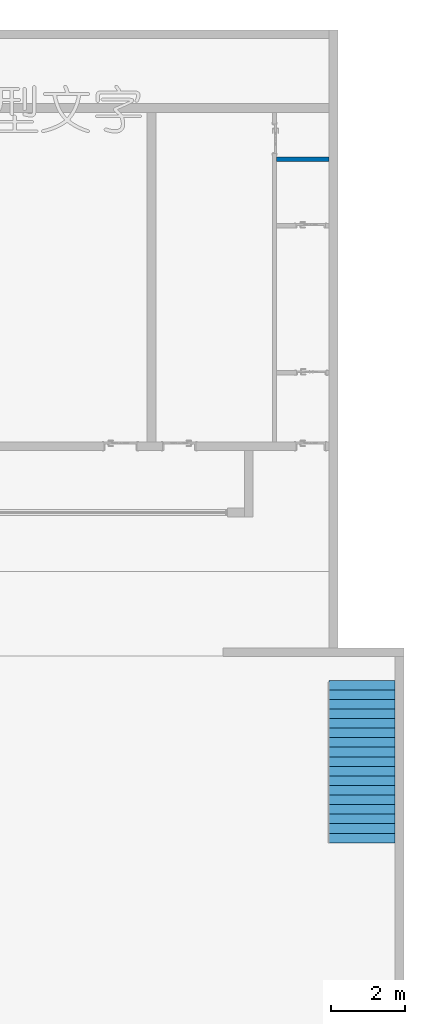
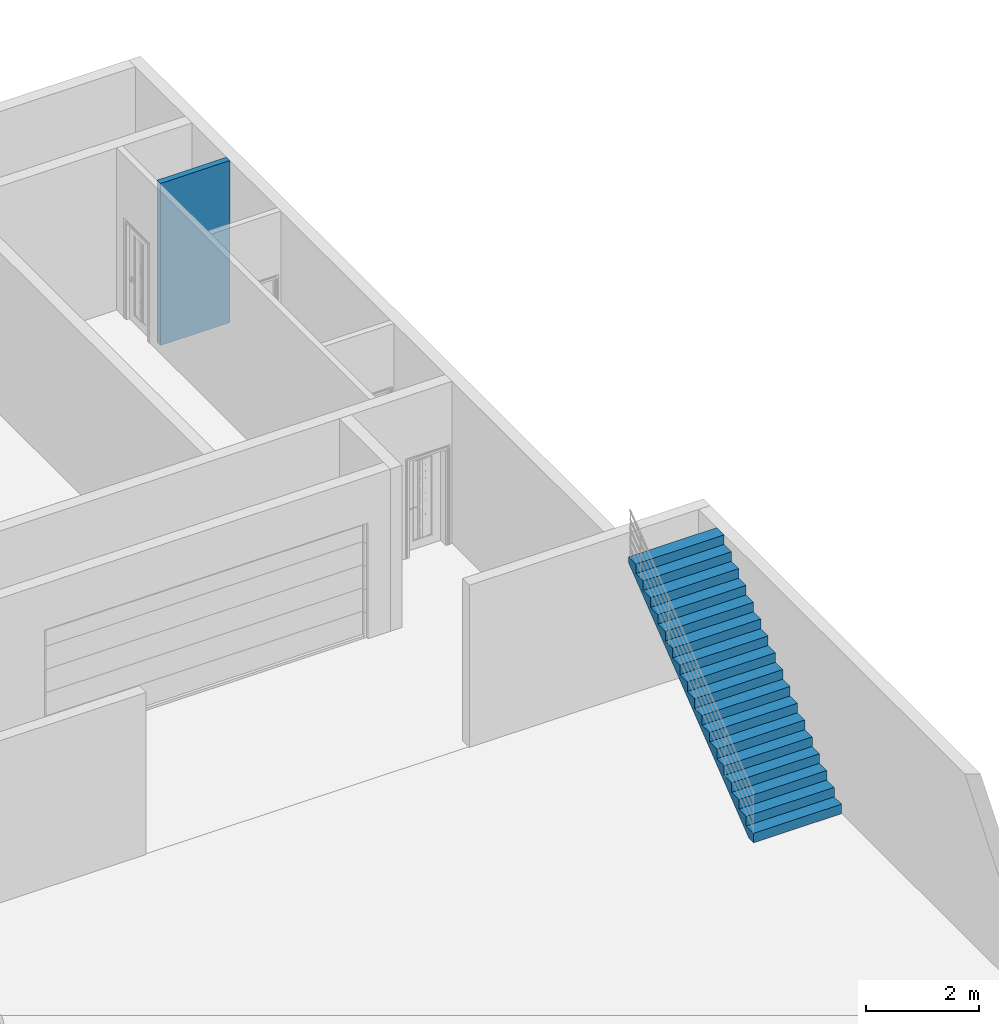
# One storey, part 21 of 24: 1 stair flight, 1 wall, 1 element without a shape of its own.
"""IFC2X3 building model written with IfcOpenShell, lengths in millimetres."""

from ifc_helpers import new_model, entity, si_unit, converted_unit, derived_unit, direction, frame, frame_2d, origin, place, context, subcontext, project, spatial, polyline, rectangle, outline, extrude, material, layer, layer_set, layer_usage, type_object, element, aggregate, save


model = new_model("IFC2X3")

# Units and contexts
model_context = context("Model", 3, precision=0.01, world=origin(), true_north=direction((6.12303176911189e-17, 1.0)))
body_context = subcontext(model_context, "Body", "Model", "MODEL_VIEW")
ifc_project = project(units=[si_unit("LENGTHUNIT", "METRE", prefix="MILLI"), si_unit("AREAUNIT", "SQUARE_METRE"), si_unit("VOLUMEUNIT", "CUBIC_METRE"), converted_unit("PLANEANGLEUNIT", "DEGREE", entity("IfcRatioMeasure", 0.0174532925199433), si_unit("PLANEANGLEUNIT", "RADIAN"), dimensions=[0, 0, 0, 0, 0, 0, 0]), si_unit("MASSUNIT", "GRAM", prefix="KILO"), derived_unit("MASSDENSITYUNIT", [(si_unit("MASSUNIT", "GRAM", prefix="KILO"), 1), (si_unit("LENGTHUNIT", "METRE"), -3)]), si_unit("TIMEUNIT", "SECOND"), si_unit("FREQUENCYUNIT", "HERTZ"), si_unit("THERMODYNAMICTEMPERATUREUNIT", "DEGREE_CELSIUS"), derived_unit("THERMALTRANSMITTANCEUNIT", [(si_unit("MASSUNIT", "GRAM", prefix="KILO"), 1), (si_unit("THERMODYNAMICTEMPERATUREUNIT", "KELVIN"), -1), (si_unit("TIMEUNIT", "SECOND"), -3)]), derived_unit("VOLUMETRICFLOWRATEUNIT", [(si_unit("LENGTHUNIT", "METRE"), 3), (si_unit("TIMEUNIT", "SECOND"), -1)]), si_unit("ELECTRICCURRENTUNIT", "AMPERE"), si_unit("ELECTRICVOLTAGEUNIT", "VOLT"), si_unit("POWERUNIT", "WATT"), si_unit("FORCEUNIT", "NEWTON", prefix="KILO"), si_unit("ILLUMINANCEUNIT", "LUX"), si_unit("LUMINOUSFLUXUNIT", "LUMEN"), si_unit("LUMINOUSINTENSITYUNIT", "CANDELA"), derived_unit("USERDEFINED", [(si_unit("MASSUNIT", "GRAM", prefix="KILO"), -1), (si_unit("LENGTHUNIT", "METRE"), -2), (si_unit("TIMEUNIT", "SECOND"), 3), (si_unit("LUMINOUSFLUXUNIT", "LUMEN"), 1)]), derived_unit("LINEARVELOCITYUNIT", [(si_unit("LENGTHUNIT", "METRE"), 1), (si_unit("TIMEUNIT", "SECOND"), -1)]), si_unit("PRESSUREUNIT", "PASCAL"), derived_unit("USERDEFINED", [(si_unit("LENGTHUNIT", "METRE"), -2), (si_unit("MASSUNIT", "GRAM", prefix="KILO"), 1), (si_unit("TIMEUNIT", "SECOND"), -2)])], contexts=[model_context])

# Site, building, storey
site_placement = place(None, origin())
site = spatial("IfcSite", under=ifc_project, at=site_placement, Name="表面", CompositionType="ELEMENT")
building_placement = place(site_placement, origin())
building = spatial("IfcBuilding", under=site, at=building_placement, CompositionType="ELEMENT")
storey_placement = place(building_placement, frame((0.0, 0.0, -3500.0)))
storey = spatial("IfcBuildingStorey", under=building, at=storey_placement, Name="-1F", CompositionType="ELEMENT", Elevation=-3500.0)

# Wall
ifc_material_1 = material(Name="白色涂料")
ifc_layer_1 = layer(ifc_material_1, 10.0)
ifc_material_2 = material(Name="默认墙")
ifc_layer_2 = layer(ifc_material_2, 100.0)
ifc_layer_3 = layer(ifc_material_1, 10.0)
ifc_layer_set = layer_set([ifc_layer_1, ifc_layer_2, ifc_layer_3], Name="基本墙:粉刷墙120")
ifc_layer_usage = layer_usage(ifc_layer_set, "AXIS2", "NEGATIVE", 60.0)
wall_type = type_object("IfcWallType", Name="基本墙:粉刷墙120", PredefinedType="STANDARD", material=ifc_layer_set)
wall_placement = place(storey_placement, frame((9229.75008735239, -907.845912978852, 0.0)))
element("IfcWallStandardCase", 1, at=wall_placement, inside=storey, type_object=wall_type, material=ifc_layer_usage, Name="基本墙:粉刷墙120", ObjectType="基本墙:粉刷墙120", context=body_context, shape_type="SweptSolid", body=[
    extrude(rectangle(XDim=1420.0, YDim=120.0, at=frame_2d((710.0, -1.4210854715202e-14), x_axis=(-1.0, 0.0))), origin(), (0.0, 0.0, 1.0), 3500.0),
])

# Stair, stair flight
stair_placement = place(storey_placement, origin())
stair = element("IfcStair", 2, at=stair_placement, inside=storey, ShapeType="NOTDEFINED")
stair_flight_placement = place(stair_placement, origin())
stair_flight = element("IfcStairFlight", 3, at=stair_flight_placement, Name="楼梯:室外楼梯:1", ObjectType="楼梯:室外楼梯", NumberOfRiser=18, NumberOfTreads=17, RiserHeight=0.674394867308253, TreadLength=0.853018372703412, context=body_context, shape_type="SweptSolid", body=[
    extrude(outline(polyline([(1585.44355703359, -2154.62814948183), (1790.99911258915, -2154.62814948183), (1790.99911258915, -1993.38661865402), (-1575.96805320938, 2265.37185051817), (-1703.4453318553, 2265.37185051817), (-1703.4453318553, 2005.37185051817), (-1497.88977629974, 2005.37185051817), (-1497.88977629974, 1745.37185051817), (-1292.33422074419, 1745.37185051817), (-1292.33422074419, 1485.37185051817), (-1086.77866518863, 1485.37185051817), (-1086.77866518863, 1225.37185051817), (-881.223109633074, 1225.37185051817), (-881.223109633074, 965.371850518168), (-675.667554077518, 965.371850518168), (-675.667554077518, 705.371850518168), (-470.111998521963, 705.371850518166), (-470.111998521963, 445.371850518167), (-264.556442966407, 445.371850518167), (-264.556442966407, 185.371850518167), (-59.0008874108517, 185.371850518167), (-59.0008874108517, -74.6281494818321), (146.554668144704, -74.6281494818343), (146.554668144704, -334.628149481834), (352.11022370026, -334.628149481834), (352.11022370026, -594.628149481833), (557.665779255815, -594.628149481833), (557.665779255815, -854.628149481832), (763.221334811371, -854.628149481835), (763.221334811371, -1114.62814948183), (968.776890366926, -1114.62814948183), (968.776890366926, -1374.62814948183), (1174.33244592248, -1374.62814948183), (1174.33244592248, -1634.62814948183), (1379.88800147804, -1634.62814948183), (1379.88800147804, -1894.62814948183), (1585.44355703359, -1894.62814948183), (1585.44355703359, -2154.62814948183)])), frame((10649.7500873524, -17333.217763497, 1790.99911258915), z_axis=(1.0, 0.0, 0.0), x_axis=(0.0, 0.0, -1.0)), (0.0, 0.0, 1.0), 1800.0),
])
aggregate(stair, [stair_flight])

save(model, "model.ifc")
